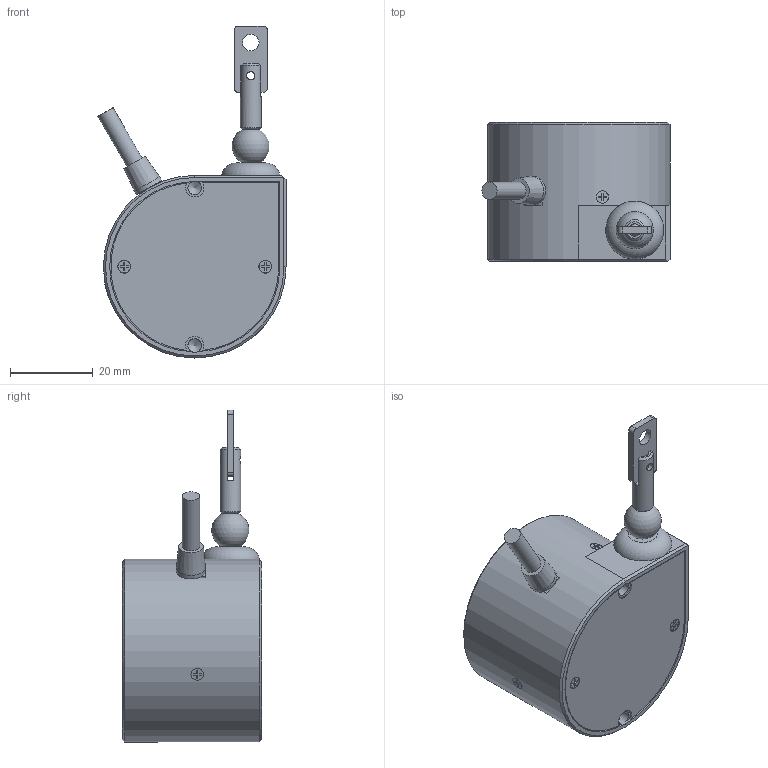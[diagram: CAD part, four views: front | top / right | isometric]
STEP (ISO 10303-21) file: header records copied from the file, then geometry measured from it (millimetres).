
FILE_DESCRIPTION(('STEP AP242'),'1');
FILE_NAME('L7I07 MLS-30.stp','2022-03-02T00:31:59',(' '),(' '),'Spatial InterOp 3D',' ',' ');
FILE_SCHEMA(('AP242_MANAGED_MODEL_BASED_3D_ENGINEERING_MIM_LF {1 0 10303 442 1 1 4}'));
Length unit declared in the file: millimetre
Products named in the file (7): L7I07 MLS-30; 018240 サラコネジ M2x4  1F; ワイヤー金具セット　M; 029960 4芯ケーブル(4.2)1M; 4芯ケーブル(4.2); ブッシュ形状
Assembly tree (10 placements, depth 3):
  L7I07 MLS-30
    L7I07 MLS-30
    018240 サラコネジ M2x4  1F  x5
    ワイヤー金具セット　M
    029960 4芯ケーブル(4.2)1M
      4芯ケーブル(4.2)
      ブッシュ形状
Bounding box: 45.32 x 33.5 x 80 mm (x, y, z)
Volume: 53629.6 mm3; surface area: 10624.7 mm2
Topology: 11 solids, 11 shells, 204 faces, 501 edges, 323 vertices
Faces by surface type: plane 134, cylinder 50, cone 16, sphere 3, torus 1
Full cylindrical faces by diameter (mm): 0.56 x1, 1 x1, 2 x13, 2.5 x2, 3 x8, 3.3 x4, 4 x2, 4.2 x2, 5 x2, 7 x1, 44 x1
Entity records: 5119 total; most frequent: CARTESIAN_POINT 852, DIRECTION 615, ORIENTED_EDGE 516, EDGE_CURVE 258, AXIS2_PLACEMENT_3D 231, VERTEX_POINT 184, EDGE_LOOP 182, FACE_OUTER_BOUND 154
